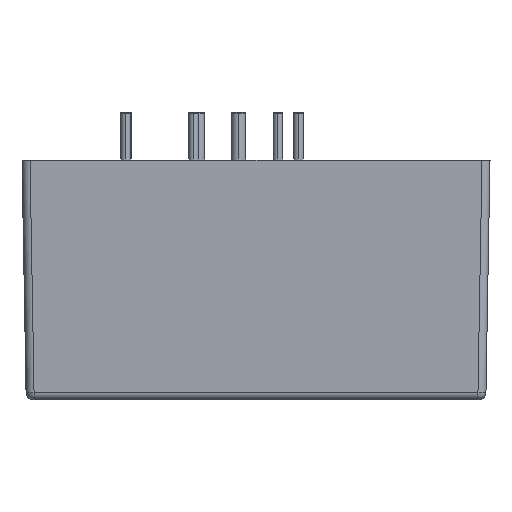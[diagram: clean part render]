
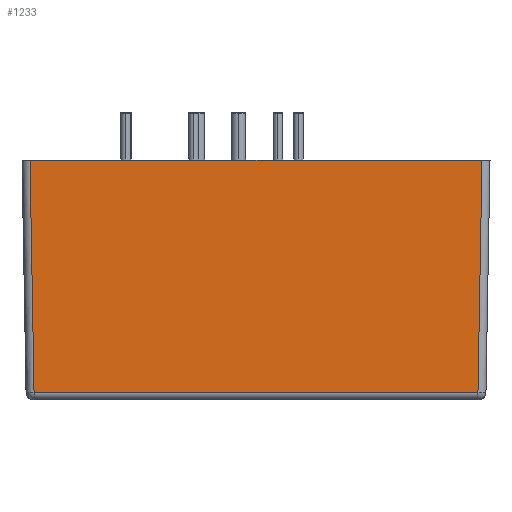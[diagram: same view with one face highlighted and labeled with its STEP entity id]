
A CAD part, left-side view. The second image highlights one B-rep face of the part: STEP entity #1233.
In plain terms, the highlighted planar face has unit normal (-1, 0, -0.018).
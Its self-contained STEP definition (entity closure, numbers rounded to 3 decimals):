
#250=CARTESIAN_POINT('',(0.,-42.946,0.));
#264=CARTESIAN_POINT('',(0.,13.554,0.));
#278=DIRECTION('',(0.017,-0.017,-1.));
#279=VECTOR('',#278,29.026);
#280=CARTESIAN_POINT('',(0.,13.554,0.));
#281=LINE('',#280,#279);
#282=DIRECTION('',(0.,1.,0.));
#283=VECTOR('',#282,56.5);
#284=CARTESIAN_POINT('',(0.,-42.946,0.));
#285=LINE('',#284,#283);
#286=DIRECTION('',(-0.017,-0.017,1.));
#287=VECTOR('',#286,29.026);
#288=CARTESIAN_POINT('',(0.507,-42.44,
-29.017));
#289=LINE('',#288,#287);
#374=DIRECTION('',(0.,1.,0.));
#375=VECTOR('',#374,55.487);
#376=CARTESIAN_POINT('',(0.507,-42.44,
-29.017));
#377=LINE('',#376,#375);
#714=CARTESIAN_POINT('',(0.507,13.047,-29.017));
#716=VERTEX_POINT('',#714);
#722=CARTESIAN_POINT('',(0.507,-42.44,
-29.017));
#724=VERTEX_POINT('',#722);
#750=VERTEX_POINT('',#250);
#753=VERTEX_POINT('',#264);
#1220=CARTESIAN_POINT('',(0.,14.554,0.));
#1221=DIRECTION('',(-1.,0.,-0.017));
#1222=DIRECTION('',(0.,1.,0.));
#1223=AXIS2_PLACEMENT_3D('',#1220,#1221,#1222);
#1224=PLANE('',#1223);
#1225=ORIENTED_EDGE('',*,*,#1212,.F.);
#1226=ORIENTED_EDGE('',*,*,#1158,.F.);
#1228=ORIENTED_EDGE('',*,*,#1227,.F.);
#1230=ORIENTED_EDGE('',*,*,#1229,.T.);
#1231=EDGE_LOOP('',(#1225,#1226,#1228,#1230));
#1232=FACE_OUTER_BOUND('',#1231,.F.);
#1158=EDGE_CURVE('',#750,#753,#285,.T.);
#1212=EDGE_CURVE('',#753,#716,#281,.T.);
#1227=EDGE_CURVE('',#724,#750,#289,.T.);
#1229=EDGE_CURVE('',#724,#716,#377,.T.);
#1233=ADVANCED_FACE('',(#1232),#1224,.T.);
